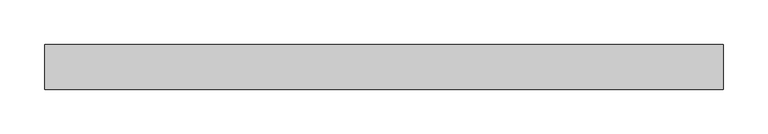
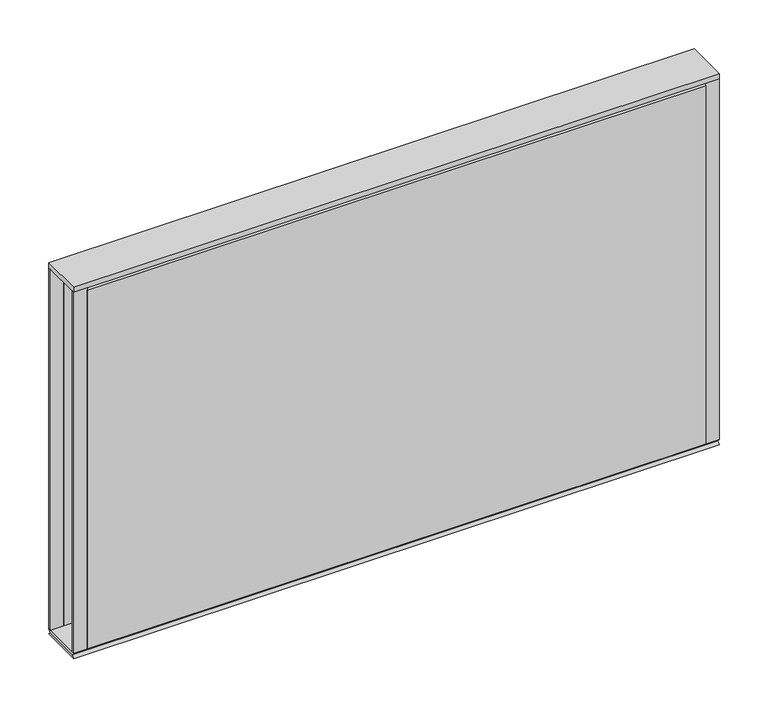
"""IFC4 building model written with IfcOpenShell, lengths in millimetres: furniture geometry, Steelcase - Kick Solutions - Panel - Stacker - Tackable Acoustical : 18H x 30W."""

from ifc_helpers import new_model, si_unit, frame, origin, place, context, project, spatial, polyline, outline, extrude, source, transform, mapped, element, save


def furniture_02dc42e4(model_context):
    return source(origin(), model_context, "Body", "SweptSolid", [
        extrude(outline(polyline([(-50.7995075, 1073.2669139), (-0.000494, 1073.2669139), (-3.1752531, 1070.0921549), (-47.6247484, 1070.0921549), (-50.7995075, 1073.2669139)])), frame((0.0, 0.0, 0.0), z_axis=(1.0, 0.0, 0.0), x_axis=(0.0, 1.0, 0.0)), (0.0, 0.0, 1.0), 762.0),
        extrude(outline(polyline([(0.0, 1073.2669139), (-3.1750015, 1073.2669139), (-3.1750015, 1524.1169018), (0.0, 1521.0357466), (0.0, 1073.2669139)])), frame((15.8749996, 0.0, 0.0), z_axis=(1.0, 0.0, 0.0), x_axis=(0.0, 1.0, 0.0)), (0.0, 0.0, 1.0), 730.2500008),
        extrude(outline(polyline([(-50.8000015, 1073.2669139), (-50.8000015, 1521.0357466), (-47.625, 1524.1169018), (-47.625, 1073.2669139), (-50.8000015, 1073.2669139)])), frame((15.8749996, 0.0, 0.0), z_axis=(1.0, 0.0, 0.0), x_axis=(0.0, 1.0, 0.0)), (0.0, 0.0, 1.0), 730.2500008),
        extrude(outline(polyline([(762.0, -3.1750015), (746.1250004, -3.1750015), (746.1250004, 0.0), (762.0, 0.0), (762.0, -3.1750015)])), frame((0.0, 0.0, 1073.2669139), z_axis=(0.0, 0.0, 1.0), x_axis=(1.0, 0.0, 0.0)), (0.0, 0.0, 1.0), 450.8499879),
        extrude(outline(polyline([(15.8749996, -50.8000015), (0.0, -50.8000015), (0.0, -47.625), (15.8749996, -47.625), (15.8749996, -50.8000015)])), frame((0.0, 0.0, 1073.2669139), z_axis=(0.0, 0.0, 1.0), x_axis=(1.0, 0.0, 0.0)), (0.0, 0.0, 1.0), 450.8499879),
        extrude(outline(polyline([(762.0, 0.0), (762.0, -50.8000015), (0.0, -50.8000015), (0.0, 0.0), (762.0, 0.0)])), frame((0.0, 0.0, 1524.1169018), z_axis=(0.0, 0.0, 1.0), x_axis=(1.0, 0.0, 0.0)), (0.0, 0.0, 1.0), 6.35),
        extrude(outline(polyline([(15.8749996, -3.1750015), (0.0, -3.1750015), (0.0, 0.0), (15.8749996, 0.0), (15.8749996, -3.1750015)])), frame((0.0, 0.0, 1073.2669139), z_axis=(0.0, 0.0, 1.0), x_axis=(1.0, 0.0, 0.0)), (0.0, 0.0, 1.0), 450.8499879),
        extrude(outline(polyline([(762.0, -50.8000015), (746.1250004, -50.8000015), (746.1250004, -47.625), (762.0, -47.625), (762.0, -50.8000015)])), frame((0.0, 0.0, 1073.2669139), z_axis=(0.0, 0.0, 1.0), x_axis=(1.0, 0.0, 0.0)), (0.0, 0.0, 1.0), 450.8499879),
        extrude(outline(polyline([(-50.8000015, 1066.9169018), (-47.6247484, 1070.0921549), (-3.1752531, 1070.0921549), (0.0, 1066.9169018), (-50.8000015, 1066.9169018)])), frame((0.0, 0.0, 0.0), z_axis=(1.0, 0.0, 0.0), x_axis=(0.0, 1.0, 0.0)), (0.0, 0.0, 1.0), 762.0),
    ])


if __name__ == "__main__":
    model = new_model("IFC4")
    model_context = context("Model", 3, world=origin())
    ifc_project = project(units=[si_unit("LENGTHUNIT", "METRE", prefix="MILLI")], contexts=[model_context])
    site = spatial("IfcSite", under=ifc_project)
    building = spatial("IfcBuilding", under=site)
    placement = place(None, origin())
    furniture_shape = furniture_02dc42e4(model_context)
    element("IfcFurniture", 1, ObjectType="Steelcase - Kick Solutions - Panel - Stacker - Tackable Acoustical : 18H x 30W", at=placement, inside=building, context=model_context, shape_type="MappedRepresentation", body=[
        mapped(furniture_shape, transform((0.0, 0.0, 0.0), x_axis=(1.0, 0.0, 0.0), y_axis=(0.0, 1.0, 0.0), z_axis=(0.0, 0.0, 1.0))),
    ])
    save(model, "model.ifc")
